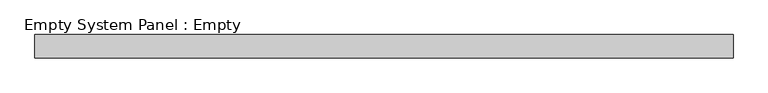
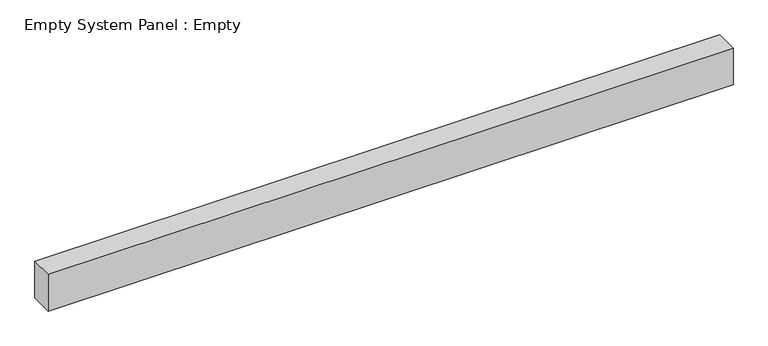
"""IFC4 building model written with IfcOpenShell, lengths in millimetres: plate geometry, Empty System Panel : Empty."""

from ifc_helpers import new_model, si_unit, origin, origin_with_axes, place, context, project, spatial, polyline, outline, extrude, source, transform, mapped, element, save


def empty_system_panel_empty_facf2a37(model_context):
    return source(origin(), model_context, "Body", "SweptSolid", [
        extrude(outline(polyline([(1500.0, 50.0), (-1500.0, 50.0), (-1500.0, 150.0), (1500.0, 150.0), (1500.0, 50.0)])), origin_with_axes(), (0.0, 0.0, 1.0), 170.0),
    ])


if __name__ == "__main__":
    model = new_model("IFC4")
    model_context = context("Model", 3, world=origin())
    ifc_project = project(units=[si_unit("LENGTHUNIT", "METRE", prefix="MILLI")], contexts=[model_context])
    site = spatial("IfcSite", under=ifc_project)
    building = spatial("IfcBuilding", under=site)
    placement = place(None, origin())
    empty_system_panel_empty_shape = empty_system_panel_empty_facf2a37(model_context)
    element("IfcPlate", 1, ObjectType="Empty System Panel : Empty", at=placement, inside=building, context=model_context, shape_type="MappedRepresentation", body=[
        mapped(empty_system_panel_empty_shape, transform((0.0, 0.0, 0.0), x_axis=(1.0, 0.0, 0.0), y_axis=(0.0, 1.0, 0.0), z_axis=(0.0, 0.0, 1.0))),
    ])
    save(model, "model.ifc")
